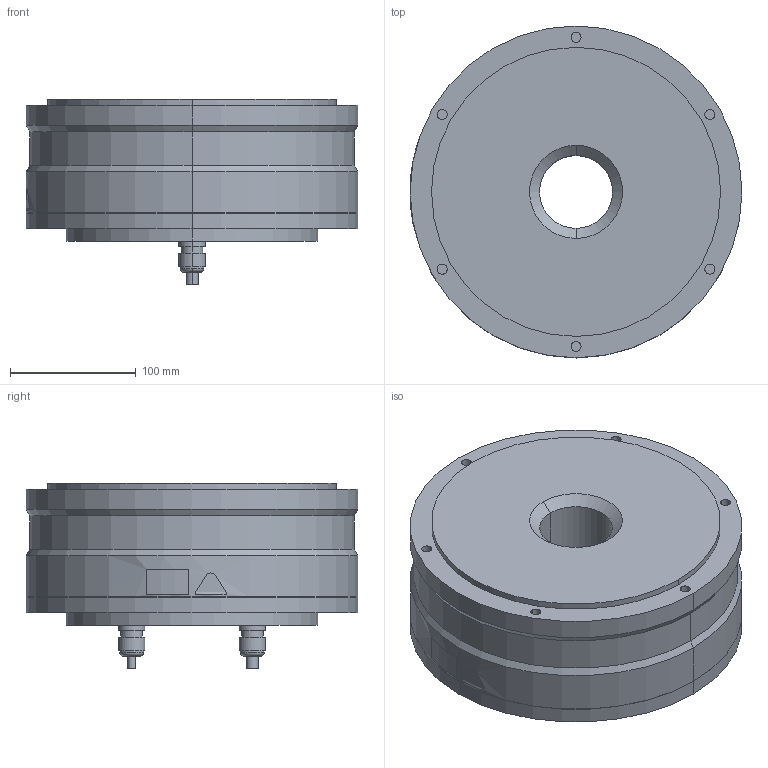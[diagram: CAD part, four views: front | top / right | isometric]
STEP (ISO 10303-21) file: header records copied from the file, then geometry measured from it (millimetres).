
FILE_DESCRIPTION (( 'STEP AP203' ), '1' );
FILE_NAME ('sgm7d_30f_c5_.STEP', '2016-02-22T07:53:03', ( '' ), ( '' ), 'SwSTEP 2.0', 'SolidWorks 2010', '' );
FILE_SCHEMA (( 'CONFIG_CONTROL_DESIGN' ));
Length unit declared in the file: millimetre
Products named in the file (1): sgm7d_30f_c5_
Bounding box: 264.08 x 264 x 147.8 mm (x, y, z)
Volume: 5488137.6 mm3; surface area: 230746.7 mm2
Topology: 1 solids, 1 shells, 224 faces, 476 edges, 310 vertices
Faces by surface type: cylinder 136, plane 73, cone 6, bspline 5, torus 4
Entity records: 6429 total; most frequent: CARTESIAN_POINT 1250, DIRECTION 1200, ORIENTED_EDGE 952, AXIS2_PLACEMENT_3D 520, EDGE_CURVE 476, VERTEX_POINT 310, CIRCLE 300, EDGE_LOOP 282
